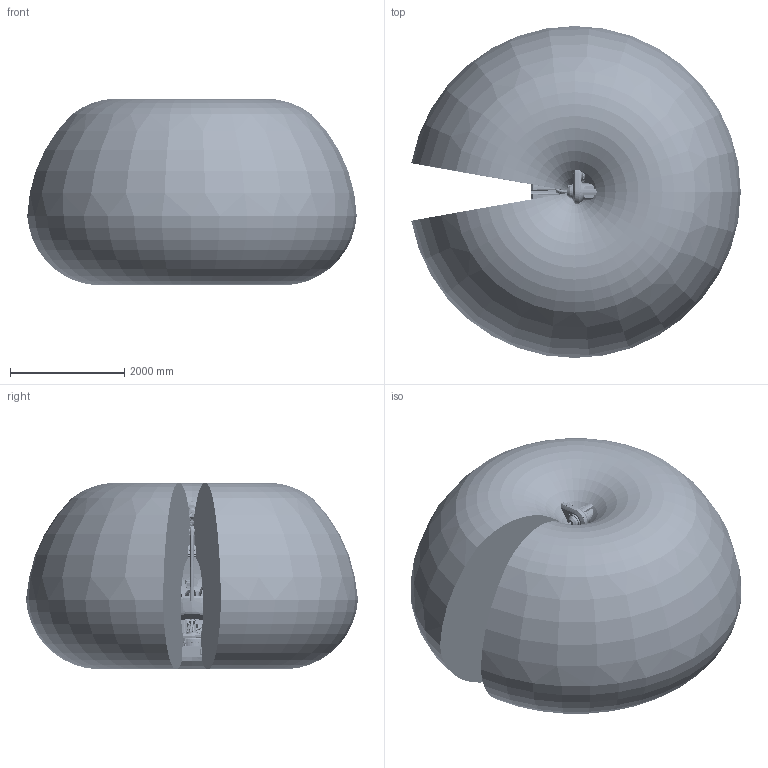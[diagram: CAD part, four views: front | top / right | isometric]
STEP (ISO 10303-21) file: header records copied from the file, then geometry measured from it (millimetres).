
FILE_DESCRIPTION (( 'STEP AP214' ), '1' );
FILE_NAME ('IRB7720-LID-MH_560kg-290_OC_01_ASM_CAD.step', '2026-01-28T12:32:49', ( '' ), ( '' ), 'SwSTEP 2.0', 'SolidWorks 2024', '' );
FILE_SCHEMA (( 'AUTOMOTIVE_DESIGN' ));
Length unit declared in the file: millimetre
Products named in the file (22): IRB77X0_All_OC_00_LINK01m_CABLE; IRB77X0_All_OC_00_LINK01_CAD; IRB7720_All-290_OC_00_LINK05_CAD; IRB7720_All-290_OC_00_LINK04_CAD; IRB77X0_All_OC_00_LINK03b_CABLE; IRB77X0_All_OC_00_LINKBAR_CAD; IRB7720_All_OC_00_BASE_CAD; IRB77X0_All_OC_00_LINK02m_CABLE; IRB7720_All-290_OC_00_LINK05_CABLE; IRB7720_All-290_OC_00_LINK06_CABLE; IRB77X0_All_OC_00_LINK02_CAD; IRB77X0_All_OC_00_LINK02_CABLE; IRB7720-LID_All-290_OC_01_LINK04_CABLE; IRB7720_All_OC_00_LINKARM_CAD; IRB7720_All-290_OC_00_Working-space; IRB77X0-LID-MH_All_OC_01_LINK03a_CABLE; IRB7720_All-290_OC_00_LINK03_CAD; IRB77X0_All_OC_00_ROD_CAD; IRB77X0_All_OC_00_LINK01_CABLE; IRB7720_All-290_OC_00_LINK03m_CABLE; IRB77X0_All_OC_00_CYL_CAD; IRB7720-LID-MH_560kg-290_OC_01_ASM_CAD
Assembly tree (21 placements, depth 2):
  IRB7720-LID-MH_560kg-290_OC_01_ASM_CAD
    IRB7720_All_OC_00_BASE_CAD
    IRB77X0_All_OC_00_LINK01_CAD
    IRB77X0_All_OC_00_LINK02_CAD
    IRB77X0_All_OC_00_CYL_CAD
    IRB77X0_All_OC_00_ROD_CAD
    IRB7720_All_OC_00_LINKARM_CAD
    IRB77X0_All_OC_00_LINKBAR_CAD
    IRB77X0_All_OC_00_LINK01m_CABLE
    IRB77X0_All_OC_00_LINK02m_CABLE
    IRB7720_All-290_OC_00_LINK03_CAD
    IRB7720_All-290_OC_00_LINK04_CAD
    IRB7720_All-290_OC_00_LINK05_CAD
    IRB7720_All-290_OC_00_LINK03m_CABLE
    IRB77X0_All_OC_00_LINK01_CABLE
    IRB77X0_All_OC_00_LINK02_CABLE
    IRB77X0_All_OC_00_LINK03b_CABLE
    IRB77X0-LID-MH_All_OC_01_LINK03a_CABLE
    IRB7720-LID_All-290_OC_01_LINK04_CABLE
    IRB7720_All-290_OC_00_LINK05_CABLE
    IRB7720_All-290_OC_00_LINK06_CABLE
    IRB7720_All-290_OC_00_Working-space
Bounding box: 5761.94 x 5806.05 x 3264.71 mm (x, y, z)
Volume: 58794933017 mm3; surface area: 126161393.9 mm2
Topology: 23 solids, 26 shells, 8627 faces, 21903 edges, 14209 vertices
Faces by surface type: plane 4340, cylinder 1825, cone 1143, bspline 972, torus 270, sphere 77
Full cylindrical faces by diameter (mm): 0.882 x1, 4.8 x8, 5 x15, 5.2 x4, 5.45 x1, 5.5 x4, 6 x16, 6.6 x4, 6.8 x30, 7 x4, 7.5 x8, 8 x8, 8.3 x2, 8.5 x17, 9.5 x4, 10 x15, 10.2 x24, 10.22 x2, 10.5 x3, 11 x7, 11.05 x2, 11.8 x2, 12 x30, 13 x1, 14 x26, 16 x4, 16.27 x72, 17 x8, 17.5 x10, 17.7 x4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
Entity records: 573644 total; most frequent: CARTESIAN_POINT 290419, ORIENTED_EDGE 39806, DIRECTION 35471, EDGE_CURVE 19903, VERTEX_POINT 13535, AXIS2_PLACEMENT_3D 13342, EDGE_LOOP 11018, FACE_OUTER_BOUND 9504
